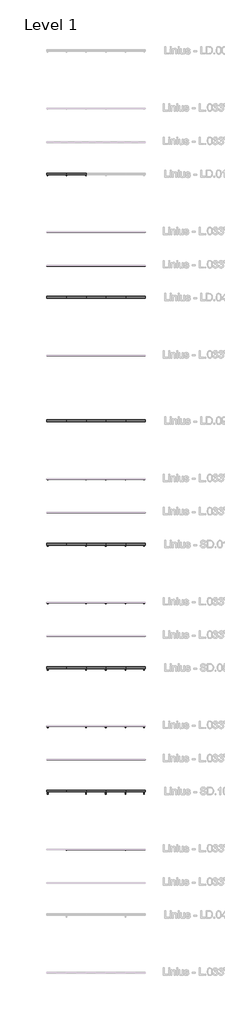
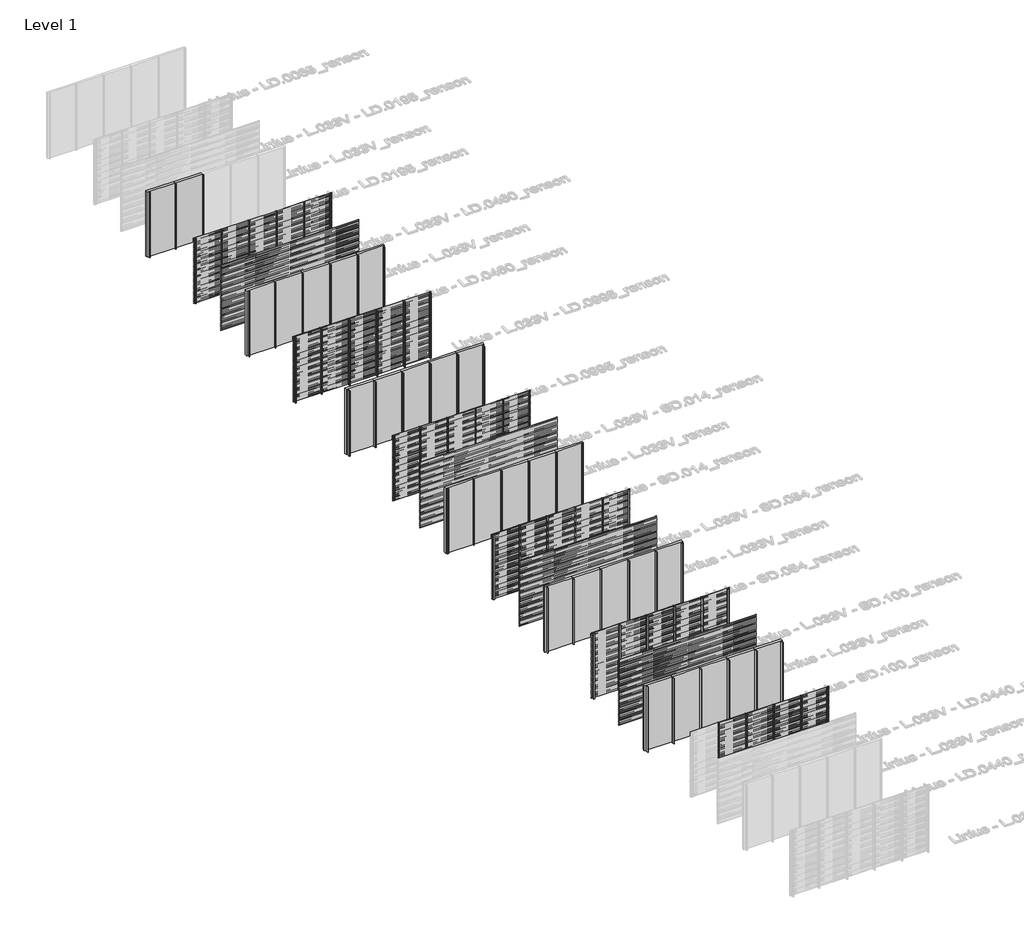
# One storey, part 3 of 507: 68 members, 60 plates.
"""IFC4 building model written with IfcOpenShell, lengths in millimetres."""

from ifc_helpers import new_model, si_unit, origin, origin_with_axes, place, context, project, spatial, polyline, outline, extrude, transform, mapped, element, save
from components import rectangular_mullion_e1f482b2, rectangular_mullion_21e3ddae, rectangular_mullion_fb497acc, rectangular_mullion_3facce28, rectangular_mullion_6cf2c509, rectangular_mullion_8b77bd57, rectangular_mullion_2c867e25, rectangular_mullion_146f339b, rectangular_mullion_c2c7736a, rectangular_mullion_35b0a916, rectangular_mullion_bd250e2e, rectangular_mullion_7b49c8f1, rectangular_mullion_2b84ad7e, rectangular_mullion_0fd695e7, rectangular_mullion_9b796d85, rectangular_mullion_dfb17e98, rectangular_mullion_6132f1f1, rectangular_mullion_8f153c19, rectangular_mullion_5e0e8e0a, empty_system_panel_empty_aabbdda4

model = new_model("IFC4")

# Units and contexts
model_context = context("Model", 3, world=origin())
ifc_project = project(units=[si_unit("LENGTHUNIT", "METRE", prefix="MILLI")], contexts=[model_context])

# Site, building, storey
site = spatial("IfcSite", under=ifc_project)
building = spatial("IfcBuilding", under=site)
storey = spatial("IfcBuildingStorey", under=building, Name="Level 1", Elevation=0.0)

# Members
placement = place(None, origin())
rectangular_mullion_shape = rectangular_mullion_e1f482b2(model_context)
element("IfcMember", 1, ObjectType="Rectangular Mullion : LD.0195_renson", at=placement, inside=storey, context=model_context, shape_type="MappedRepresentation", body=[
    mapped(rectangular_mullion_shape, transform((91866.6208097, 62481.0540136, 0.0), x_axis=(-1.0, 0.0, 0.0), y_axis=(0.0, 1.0, 0.0), z_axis=(0.0, 0.0, -1.0))),
])
element("IfcMember", 2, ObjectType="Rectangular Mullion : LD.0195_renson", at=placement, inside=storey, context=model_context, shape_type="MappedRepresentation", body=[
    mapped(rectangular_mullion_shape, transform((90666.6208099, 62481.0540136, 0.0), x_axis=(-1.0, 0.0, 0.0), y_axis=(0.0, 1.0, 0.0), z_axis=(0.0, 0.0, -1.0))),
])
rectangular_mullion_2_shape = rectangular_mullion_21e3ddae(model_context)
element("IfcMember", 3, ObjectType="Rectangular Mullion : LD.0460_renson", at=placement, inside=storey, context=model_context, shape_type="MappedRepresentation", body=[
    mapped(rectangular_mullion_2_shape, transform((93066.6208096, 54981.0540136, 0.0), x_axis=(-1.0, 0.0, 0.0), y_axis=(0.0, 1.0, 0.0), z_axis=(0.0, 0.0, -1.0))),
])
element("IfcMember", 4, ObjectType="Rectangular Mullion : LD.0460_renson", at=placement, inside=storey, context=model_context, shape_type="MappedRepresentation", body=[
    mapped(rectangular_mullion_2_shape, transform((91866.6208097, 54981.0540136, 0.0), x_axis=(-1.0, 0.0, 0.0), y_axis=(0.0, 1.0, 0.0), z_axis=(0.0, 0.0, -1.0))),
])
element("IfcMember", 5, ObjectType="Rectangular Mullion : LD.0460_renson", at=placement, inside=storey, context=model_context, shape_type="MappedRepresentation", body=[
    mapped(rectangular_mullion_2_shape, transform((90666.6208099, 54981.0540136, 0.0), x_axis=(-1.0, 0.0, 0.0), y_axis=(0.0, 1.0, 0.0), z_axis=(0.0, 0.0, -1.0))),
])
element("IfcMember", 6, ObjectType="Rectangular Mullion : LD.0460_renson", at=placement, inside=storey, context=model_context, shape_type="MappedRepresentation", body=[
    mapped(rectangular_mullion_2_shape, transform((94266.6208095, 54981.0540136, 0.0), x_axis=(-1.0, 0.0, 0.0), y_axis=(0.0, 1.0, 0.0), z_axis=(0.0, 0.0, -1.0))),
])
element("IfcMember", 7, ObjectType="Rectangular Mullion : LD.0460_renson", at=placement, inside=storey, context=model_context, shape_type="MappedRepresentation", body=[
    mapped(rectangular_mullion_2_shape, transform((94266.6208095, 59025.0540136, 0.0), x_axis=(-1.0, 0.0, 0.0), y_axis=(0.0, 1.0, 0.0), z_axis=(0.0, 0.0, -1.0))),
])
element("IfcMember", 8, ObjectType="Rectangular Mullion : LD.0460_renson", at=placement, inside=storey, context=model_context, shape_type="MappedRepresentation", body=[
    mapped(rectangular_mullion_2_shape, transform((93066.6208096, 59025.0540136, 0.0), x_axis=(-1.0, 0.0, 0.0), y_axis=(0.0, 1.0, 0.0), z_axis=(0.0, 0.0, -1.0))),
])
element("IfcMember", 9, ObjectType="Rectangular Mullion : LD.0460_renson", at=placement, inside=storey, context=model_context, shape_type="MappedRepresentation", body=[
    mapped(rectangular_mullion_2_shape, transform((91866.6208097, 59025.0540136, 0.0), x_axis=(-1.0, 0.0, 0.0), y_axis=(0.0, 1.0, 0.0), z_axis=(0.0, 0.0, -1.0))),
])
element("IfcMember", 10, ObjectType="Rectangular Mullion : LD.0460_renson", at=placement, inside=storey, context=model_context, shape_type="MappedRepresentation", body=[
    mapped(rectangular_mullion_2_shape, transform((90666.6208099, 59025.0540136, 0.0), x_axis=(-1.0, 0.0, 0.0), y_axis=(0.0, 1.0, 0.0), z_axis=(0.0, 0.0, -1.0))),
])
rectangular_mullion_3_shape = rectangular_mullion_fb497acc(model_context)
element("IfcMember", 11, ObjectType="Rectangular Mullion : LD.0995_renson", at=placement, inside=storey, context=model_context, shape_type="MappedRepresentation", body=[
    mapped(rectangular_mullion_3_shape, transform((93066.6208096, 47481.0540136, 0.0), x_axis=(-1.0, 0.0, 0.0), y_axis=(0.0, 1.0, 0.0), z_axis=(0.0, 0.0, -1.0))),
])
element("IfcMember", 12, ObjectType="Rectangular Mullion : LD.0995_renson", at=placement, inside=storey, context=model_context, shape_type="MappedRepresentation", body=[
    mapped(rectangular_mullion_3_shape, transform((91866.6208097, 47481.0540136, 0.0), x_axis=(-1.0, 0.0, 0.0), y_axis=(0.0, 1.0, 0.0), z_axis=(0.0, 0.0, -1.0))),
])
element("IfcMember", 13, ObjectType="Rectangular Mullion : LD.0995_renson", at=placement, inside=storey, context=model_context, shape_type="MappedRepresentation", body=[
    mapped(rectangular_mullion_3_shape, transform((90666.6208099, 47481.0540136, 0.0), x_axis=(-1.0, 0.0, 0.0), y_axis=(0.0, 1.0, 0.0), z_axis=(0.0, 0.0, -1.0))),
])
element("IfcMember", 14, ObjectType="Rectangular Mullion : LD.0995_renson", at=placement, inside=storey, context=model_context, shape_type="MappedRepresentation", body=[
    mapped(rectangular_mullion_3_shape, transform((94266.6208095, 47481.0540136, 0.0), x_axis=(-1.0, 0.0, 0.0), y_axis=(0.0, 1.0, 0.0), z_axis=(0.0, 0.0, -1.0))),
])
element("IfcMember", 15, ObjectType="Rectangular Mullion : LD.0995_renson", at=placement, inside=storey, context=model_context, shape_type="MappedRepresentation", body=[
    mapped(rectangular_mullion_3_shape, transform((94266.6208095, 51525.0540136, 0.0), x_axis=(-1.0, 0.0, 0.0), y_axis=(0.0, 1.0, 0.0), z_axis=(0.0, 0.0, -1.0))),
])
element("IfcMember", 16, ObjectType="Rectangular Mullion : LD.0995_renson", at=placement, inside=storey, context=model_context, shape_type="MappedRepresentation", body=[
    mapped(rectangular_mullion_3_shape, transform((93066.6208096, 51525.0540136, 0.0), x_axis=(-1.0, 0.0, 0.0), y_axis=(0.0, 1.0, 0.0), z_axis=(0.0, 0.0, -1.0))),
])
element("IfcMember", 17, ObjectType="Rectangular Mullion : LD.0995_renson", at=placement, inside=storey, context=model_context, shape_type="MappedRepresentation", body=[
    mapped(rectangular_mullion_3_shape, transform((91866.6208097, 51525.0540136, 0.0), x_axis=(-1.0, 0.0, 0.0), y_axis=(0.0, 1.0, 0.0), z_axis=(0.0, 0.0, -1.0))),
])
element("IfcMember", 18, ObjectType="Rectangular Mullion : LD.0995_renson", at=placement, inside=storey, context=model_context, shape_type="MappedRepresentation", body=[
    mapped(rectangular_mullion_3_shape, transform((90666.6208099, 51525.0540136, 0.0), x_axis=(-1.0, 0.0, 0.0), y_axis=(0.0, 1.0, 0.0), z_axis=(0.0, 0.0, -1.0))),
])
rectangular_mullion_4_shape = rectangular_mullion_3facce28(model_context)
element("IfcMember", 19, ObjectType="Rectangular Mullion : SD.014_renson", at=placement, inside=storey, context=model_context, shape_type="MappedRepresentation", body=[
    mapped(rectangular_mullion_4_shape, transform((93066.6208096, 39981.0540136, 0.0), x_axis=(-1.0, 0.0, 0.0), y_axis=(0.0, 1.0, 0.0), z_axis=(0.0, 0.0, -1.0))),
])
element("IfcMember", 20, ObjectType="Rectangular Mullion : SD.014_renson", at=placement, inside=storey, context=model_context, shape_type="MappedRepresentation", body=[
    mapped(rectangular_mullion_4_shape, transform((91866.6208097, 39981.0540136, 0.0), x_axis=(-1.0, 0.0, 0.0), y_axis=(0.0, 1.0, 0.0), z_axis=(0.0, 0.0, -1.0))),
])
element("IfcMember", 21, ObjectType="Rectangular Mullion : SD.014_renson", at=placement, inside=storey, context=model_context, shape_type="MappedRepresentation", body=[
    mapped(rectangular_mullion_4_shape, transform((90666.6208099, 39981.0540136, 0.0), x_axis=(-1.0, 0.0, 0.0), y_axis=(0.0, 1.0, 0.0), z_axis=(0.0, 0.0, -1.0))),
])
element("IfcMember", 22, ObjectType="Rectangular Mullion : SD.014_renson", at=placement, inside=storey, context=model_context, shape_type="MappedRepresentation", body=[
    mapped(rectangular_mullion_4_shape, transform((94266.6208095, 39981.0540136, 0.0), x_axis=(-1.0, 0.0, 0.0), y_axis=(0.0, 1.0, 0.0), z_axis=(0.0, 0.0, -1.0))),
])
element("IfcMember", 23, ObjectType="Rectangular Mullion : SD.014_renson", at=placement, inside=storey, context=model_context, shape_type="MappedRepresentation", body=[
    mapped(rectangular_mullion_4_shape, transform((94266.6208095, 44025.0540136, 0.0), x_axis=(-1.0, 0.0, 0.0), y_axis=(0.0, 1.0, 0.0), z_axis=(0.0, 0.0, -1.0))),
])
element("IfcMember", 24, ObjectType="Rectangular Mullion : SD.014_renson", at=placement, inside=storey, context=model_context, shape_type="MappedRepresentation", body=[
    mapped(rectangular_mullion_4_shape, transform((93066.6208096, 44025.0540136, 0.0), x_axis=(-1.0, 0.0, 0.0), y_axis=(0.0, 1.0, 0.0), z_axis=(0.0, 0.0, -1.0))),
])
element("IfcMember", 25, ObjectType="Rectangular Mullion : SD.014_renson", at=placement, inside=storey, context=model_context, shape_type="MappedRepresentation", body=[
    mapped(rectangular_mullion_4_shape, transform((91866.6208097, 44025.0540136, 0.0), x_axis=(-1.0, 0.0, 0.0), y_axis=(0.0, 1.0, 0.0), z_axis=(0.0, 0.0, -1.0))),
])
element("IfcMember", 26, ObjectType="Rectangular Mullion : SD.014_renson", at=placement, inside=storey, context=model_context, shape_type="MappedRepresentation", body=[
    mapped(rectangular_mullion_4_shape, transform((90666.6208099, 44025.0540136, 0.0), x_axis=(-1.0, 0.0, 0.0), y_axis=(0.0, 1.0, 0.0), z_axis=(0.0, 0.0, -1.0))),
])
rectangular_mullion_5_shape = rectangular_mullion_6cf2c509(model_context)
element("IfcMember", 27, ObjectType="Rectangular Mullion : SD.054_renson", at=placement, inside=storey, context=model_context, shape_type="MappedRepresentation", body=[
    mapped(rectangular_mullion_5_shape, transform((93066.6208096, 32481.0540136, 0.0), x_axis=(-1.0, 0.0, 0.0), y_axis=(0.0, 1.0, 0.0), z_axis=(0.0, 0.0, -1.0))),
])
element("IfcMember", 28, ObjectType="Rectangular Mullion : SD.054_renson", at=placement, inside=storey, context=model_context, shape_type="MappedRepresentation", body=[
    mapped(rectangular_mullion_5_shape, transform((91866.6208097, 32481.0540136, 0.0), x_axis=(-1.0, 0.0, 0.0), y_axis=(0.0, 1.0, 0.0), z_axis=(0.0, 0.0, -1.0))),
])
element("IfcMember", 29, ObjectType="Rectangular Mullion : SD.054_renson", at=placement, inside=storey, context=model_context, shape_type="MappedRepresentation", body=[
    mapped(rectangular_mullion_5_shape, transform((90666.6208099, 32481.0540136, 0.0), x_axis=(-1.0, 0.0, 0.0), y_axis=(0.0, 1.0, 0.0), z_axis=(0.0, 0.0, -1.0))),
])
element("IfcMember", 30, ObjectType="Rectangular Mullion : SD.054_renson", at=placement, inside=storey, context=model_context, shape_type="MappedRepresentation", body=[
    mapped(rectangular_mullion_5_shape, transform((94266.6208095, 32481.0540136, 0.0), x_axis=(-1.0, 0.0, 0.0), y_axis=(0.0, 1.0, 0.0), z_axis=(0.0, 0.0, -1.0))),
])
element("IfcMember", 31, ObjectType="Rectangular Mullion : SD.054_renson", at=placement, inside=storey, context=model_context, shape_type="MappedRepresentation", body=[
    mapped(rectangular_mullion_5_shape, transform((94266.6208095, 36525.0540136, 0.0), x_axis=(-1.0, 0.0, 0.0), y_axis=(0.0, 1.0, 0.0), z_axis=(0.0, 0.0, -1.0))),
])
element("IfcMember", 32, ObjectType="Rectangular Mullion : SD.054_renson", at=placement, inside=storey, context=model_context, shape_type="MappedRepresentation", body=[
    mapped(rectangular_mullion_5_shape, transform((93066.6208096, 36525.0540136, 0.0), x_axis=(-1.0, 0.0, 0.0), y_axis=(0.0, 1.0, 0.0), z_axis=(0.0, 0.0, -1.0))),
])
element("IfcMember", 33, ObjectType="Rectangular Mullion : SD.054_renson", at=placement, inside=storey, context=model_context, shape_type="MappedRepresentation", body=[
    mapped(rectangular_mullion_5_shape, transform((91866.6208097, 36525.0540136, 0.0), x_axis=(-1.0, 0.0, 0.0), y_axis=(0.0, 1.0, 0.0), z_axis=(0.0, 0.0, -1.0))),
])
element("IfcMember", 34, ObjectType="Rectangular Mullion : SD.054_renson", at=placement, inside=storey, context=model_context, shape_type="MappedRepresentation", body=[
    mapped(rectangular_mullion_5_shape, transform((90666.6208099, 36525.0540136, 0.0), x_axis=(-1.0, 0.0, 0.0), y_axis=(0.0, 1.0, 0.0), z_axis=(0.0, 0.0, -1.0))),
])
rectangular_mullion_6_shape = rectangular_mullion_8b77bd57(model_context)
element("IfcMember", 35, ObjectType="Rectangular Mullion : SD.100_renson", at=placement, inside=storey, context=model_context, shape_type="MappedRepresentation", body=[
    mapped(rectangular_mullion_6_shape, transform((93066.6208096, 24981.0540136, 0.0), x_axis=(-1.0, 0.0, 0.0), y_axis=(0.0, 1.0, 0.0), z_axis=(0.0, 0.0, -1.0))),
])
element("IfcMember", 36, ObjectType="Rectangular Mullion : SD.100_renson", at=placement, inside=storey, context=model_context, shape_type="MappedRepresentation", body=[
    mapped(rectangular_mullion_6_shape, transform((91866.6208097, 24981.0540136, 0.0), x_axis=(-1.0, 0.0, 0.0), y_axis=(0.0, 1.0, 0.0), z_axis=(0.0, 0.0, -1.0))),
])
element("IfcMember", 37, ObjectType="Rectangular Mullion : SD.100_renson", at=placement, inside=storey, context=model_context, shape_type="MappedRepresentation", body=[
    mapped(rectangular_mullion_6_shape, transform((90666.6208099, 24981.0540136, 0.0), x_axis=(-1.0, 0.0, 0.0), y_axis=(0.0, 1.0, 0.0), z_axis=(0.0, 0.0, -1.0))),
])
element("IfcMember", 38, ObjectType="Rectangular Mullion : SD.100_renson", at=placement, inside=storey, context=model_context, shape_type="MappedRepresentation", body=[
    mapped(rectangular_mullion_6_shape, transform((94266.6208095, 24981.0540136, 0.0), x_axis=(-1.0, 0.0, 0.0), y_axis=(0.0, 1.0, 0.0), z_axis=(0.0, 0.0, -1.0))),
])
element("IfcMember", 39, ObjectType="Rectangular Mullion : SD.100_renson", at=placement, inside=storey, context=model_context, shape_type="MappedRepresentation", body=[
    mapped(rectangular_mullion_6_shape, transform((94266.6208095, 29025.0540136, 0.0), x_axis=(-1.0, 0.0, 0.0), y_axis=(0.0, 1.0, 0.0), z_axis=(0.0, 0.0, -1.0))),
])
element("IfcMember", 40, ObjectType="Rectangular Mullion : SD.100_renson", at=placement, inside=storey, context=model_context, shape_type="MappedRepresentation", body=[
    mapped(rectangular_mullion_6_shape, transform((93066.6208096, 29025.0540136, 0.0), x_axis=(-1.0, 0.0, 0.0), y_axis=(0.0, 1.0, 0.0), z_axis=(0.0, 0.0, -1.0))),
])
element("IfcMember", 41, ObjectType="Rectangular Mullion : SD.100_renson", at=placement, inside=storey, context=model_context, shape_type="MappedRepresentation", body=[
    mapped(rectangular_mullion_6_shape, transform((91866.6208097, 29025.0540136, 0.0), x_axis=(-1.0, 0.0, 0.0), y_axis=(0.0, 1.0, 0.0), z_axis=(0.0, 0.0, -1.0))),
])
element("IfcMember", 42, ObjectType="Rectangular Mullion : SD.100_renson", at=placement, inside=storey, context=model_context, shape_type="MappedRepresentation", body=[
    mapped(rectangular_mullion_6_shape, transform((90666.6208099, 29025.0540136, 0.0), x_axis=(-1.0, 0.0, 0.0), y_axis=(0.0, 1.0, 0.0), z_axis=(0.0, 0.0, -1.0))),
])
rectangular_mullion_7_shape = rectangular_mullion_2c867e25(model_context)
element("IfcMember", 43, ObjectType="Rectangular Mullion : LD.0440_renson", at=placement, inside=storey, context=model_context, shape_type="MappedRepresentation", body=[
    mapped(rectangular_mullion_7_shape, transform((94266.6208095, 21525.0540136, 0.0), x_axis=(-1.0, 0.0, 0.0), y_axis=(0.0, 1.0, 0.0), z_axis=(0.0, 0.0, -1.0))),
])
element("IfcMember", 44, ObjectType="Rectangular Mullion : LD.0440_renson", at=placement, inside=storey, context=model_context, shape_type="MappedRepresentation", body=[
    mapped(rectangular_mullion_7_shape, transform((93066.6208096, 21525.0540136, 0.0), x_axis=(-1.0, 0.0, 0.0), y_axis=(0.0, 1.0, 0.0), z_axis=(0.0, 0.0, -1.0))),
])
element("IfcMember", 45, ObjectType="Rectangular Mullion : LD.0440_renson", at=placement, inside=storey, context=model_context, shape_type="MappedRepresentation", body=[
    mapped(rectangular_mullion_7_shape, transform((91866.6208097, 21525.0540136, 0.0), x_axis=(-1.0, 0.0, 0.0), y_axis=(0.0, 1.0, 0.0), z_axis=(0.0, 0.0, -1.0))),
])
element("IfcMember", 46, ObjectType="Rectangular Mullion : LD.0440_renson", at=placement, inside=storey, context=model_context, shape_type="MappedRepresentation", body=[
    mapped(rectangular_mullion_7_shape, transform((90666.6208099, 21525.0540136, 0.0), x_axis=(-1.0, 0.0, 0.0), y_axis=(0.0, 1.0, 0.0), z_axis=(0.0, 0.0, -1.0))),
])
rectangular_mullion_8_shape = rectangular_mullion_146f339b(model_context)
element("IfcMember", 47, ObjectType="Rectangular Mullion : LD.0195 - left_renson", at=placement, inside=storey, context=model_context, shape_type="MappedRepresentation", body=[
    mapped(rectangular_mullion_8_shape, transform((89466.6208097, 62481.0540136, 0.0), x_axis=(-1.0, 0.0, 0.0), y_axis=(0.0, 1.0, 0.0), z_axis=(0.0, 0.0, -1.0))),
])
rectangular_mullion_9_shape = rectangular_mullion_c2c7736a(model_context)
element("IfcMember", 48, ObjectType="Rectangular Mullion : LD.0460 - left_renson", at=placement, inside=storey, context=model_context, shape_type="MappedRepresentation", body=[
    mapped(rectangular_mullion_9_shape, transform((89466.6208097, 54981.0540136, 0.0), x_axis=(-1.0, 0.0, 0.0), y_axis=(0.0, 1.0, 0.0), z_axis=(0.0, 0.0, -1.0))),
])
element("IfcMember", 49, ObjectType="Rectangular Mullion : LD.0460 - left_renson", at=placement, inside=storey, context=model_context, shape_type="MappedRepresentation", body=[
    mapped(rectangular_mullion_9_shape, transform((89466.6208097, 59025.0540136, 0.0), x_axis=(-1.0, 0.0, 0.0), y_axis=(0.0, 1.0, 0.0), z_axis=(0.0, 0.0, -1.0))),
])
rectangular_mullion_10_shape = rectangular_mullion_35b0a916(model_context)
element("IfcMember", 50, ObjectType="Rectangular Mullion : LD.0460 - right_renson", at=placement, inside=storey, context=model_context, shape_type="MappedRepresentation", body=[
    mapped(rectangular_mullion_10_shape, transform((95466.6208097, 54981.0540136, 3000.0), x_axis=(1.0, 0.0, 0.0), y_axis=(0.0, 1.0, 0.0), z_axis=(0.0, 0.0, 1.0))),
])
element("IfcMember", 51, ObjectType="Rectangular Mullion : LD.0460 - right_renson", at=placement, inside=storey, context=model_context, shape_type="MappedRepresentation", body=[
    mapped(rectangular_mullion_10_shape, transform((95466.6208097, 59025.0540136, 3000.0), x_axis=(1.0, 0.0, 0.0), y_axis=(0.0, 1.0, 0.0), z_axis=(0.0, 0.0, 1.0))),
])
rectangular_mullion_11_shape = rectangular_mullion_bd250e2e(model_context)
element("IfcMember", 52, ObjectType="Rectangular Mullion : LD.0995 - left_renson", at=placement, inside=storey, context=model_context, shape_type="MappedRepresentation", body=[
    mapped(rectangular_mullion_11_shape, transform((89466.6208097, 47481.0540136, 0.0), x_axis=(-1.0, 0.0, 0.0), y_axis=(0.0, 1.0, 0.0), z_axis=(0.0, 0.0, -1.0))),
])
element("IfcMember", 53, ObjectType="Rectangular Mullion : LD.0995 - left_renson", at=placement, inside=storey, context=model_context, shape_type="MappedRepresentation", body=[
    mapped(rectangular_mullion_11_shape, transform((89466.6208097, 51525.0540136, 0.0), x_axis=(-1.0, 0.0, 0.0), y_axis=(0.0, 1.0, 0.0), z_axis=(0.0, 0.0, -1.0))),
])
rectangular_mullion_12_shape = rectangular_mullion_7b49c8f1(model_context)
element("IfcMember", 54, ObjectType="Rectangular Mullion : LD.0995 - right_renson", at=placement, inside=storey, context=model_context, shape_type="MappedRepresentation", body=[
    mapped(rectangular_mullion_12_shape, transform((95466.6208097, 47481.0540136, 3000.0), x_axis=(1.0, 0.0, 0.0), y_axis=(0.0, 1.0, 0.0), z_axis=(0.0, 0.0, 1.0))),
])
element("IfcMember", 55, ObjectType="Rectangular Mullion : LD.0995 - right_renson", at=placement, inside=storey, context=model_context, shape_type="MappedRepresentation", body=[
    mapped(rectangular_mullion_12_shape, transform((95466.6208097, 51525.0540136, 3000.0), x_axis=(1.0, 0.0, 0.0), y_axis=(0.0, 1.0, 0.0), z_axis=(0.0, 0.0, 1.0))),
])
rectangular_mullion_13_shape = rectangular_mullion_2b84ad7e(model_context)
element("IfcMember", 56, ObjectType="Rectangular Mullion : SD.014 - left_renson", at=placement, inside=storey, context=model_context, shape_type="MappedRepresentation", body=[
    mapped(rectangular_mullion_13_shape, transform((89466.6208097, 39981.0540136, 0.0), x_axis=(-1.0, 0.0, 0.0), y_axis=(0.0, 1.0, 0.0), z_axis=(0.0, 0.0, -1.0))),
])
element("IfcMember", 57, ObjectType="Rectangular Mullion : SD.014 - left_renson", at=placement, inside=storey, context=model_context, shape_type="MappedRepresentation", body=[
    mapped(rectangular_mullion_13_shape, transform((89466.6208097, 44025.0540136, 0.0), x_axis=(-1.0, 0.0, 0.0), y_axis=(0.0, 1.0, 0.0), z_axis=(0.0, 0.0, -1.0))),
])
rectangular_mullion_14_shape = rectangular_mullion_0fd695e7(model_context)
element("IfcMember", 58, ObjectType="Rectangular Mullion : SD.014 - right_renson", at=placement, inside=storey, context=model_context, shape_type="MappedRepresentation", body=[
    mapped(rectangular_mullion_14_shape, transform((95466.6208097, 39981.0540136, 3000.0), x_axis=(1.0, 0.0, 0.0), y_axis=(0.0, 1.0, 0.0), z_axis=(0.0, 0.0, 1.0))),
])
element("IfcMember", 59, ObjectType="Rectangular Mullion : SD.014 - right_renson", at=placement, inside=storey, context=model_context, shape_type="MappedRepresentation", body=[
    mapped(rectangular_mullion_14_shape, transform((95466.6208097, 44025.0540136, 3000.0), x_axis=(1.0, 0.0, 0.0), y_axis=(0.0, 1.0, 0.0), z_axis=(0.0, 0.0, 1.0))),
])
rectangular_mullion_15_shape = rectangular_mullion_9b796d85(model_context)
element("IfcMember", 60, ObjectType="Rectangular Mullion : SD.054 - left_renson", at=placement, inside=storey, context=model_context, shape_type="MappedRepresentation", body=[
    mapped(rectangular_mullion_15_shape, transform((89466.6208097, 32481.0540136, 0.0), x_axis=(-1.0, 0.0, 0.0), y_axis=(0.0, 1.0, 0.0), z_axis=(0.0, 0.0, -1.0))),
])
element("IfcMember", 61, ObjectType="Rectangular Mullion : SD.054 - left_renson", at=placement, inside=storey, context=model_context, shape_type="MappedRepresentation", body=[
    mapped(rectangular_mullion_15_shape, transform((89466.6208097, 36525.0540136, 0.0), x_axis=(-1.0, 0.0, 0.0), y_axis=(0.0, 1.0, 0.0), z_axis=(0.0, 0.0, -1.0))),
])
rectangular_mullion_16_shape = rectangular_mullion_dfb17e98(model_context)
element("IfcMember", 62, ObjectType="Rectangular Mullion : SD.054 - right_renson", at=placement, inside=storey, context=model_context, shape_type="MappedRepresentation", body=[
    mapped(rectangular_mullion_16_shape, transform((95466.6208097, 32481.0540136, 3000.0), x_axis=(1.0, 0.0, 0.0), y_axis=(0.0, 1.0, 0.0), z_axis=(0.0, 0.0, 1.0))),
])
element("IfcMember", 63, ObjectType="Rectangular Mullion : SD.054 - right_renson", at=placement, inside=storey, context=model_context, shape_type="MappedRepresentation", body=[
    mapped(rectangular_mullion_16_shape, transform((95466.6208097, 36525.0540136, 3000.0), x_axis=(1.0, 0.0, 0.0), y_axis=(0.0, 1.0, 0.0), z_axis=(0.0, 0.0, 1.0))),
])
rectangular_mullion_17_shape = rectangular_mullion_6132f1f1(model_context)
element("IfcMember", 64, ObjectType="Rectangular Mullion : SD.100 - left_renson", at=placement, inside=storey, context=model_context, shape_type="MappedRepresentation", body=[
    mapped(rectangular_mullion_17_shape, transform((89466.6208097, 24981.0540136, 0.0), x_axis=(-1.0, 0.0, 0.0), y_axis=(0.0, 1.0, 0.0), z_axis=(0.0, 0.0, -1.0))),
])
element("IfcMember", 65, ObjectType="Rectangular Mullion : SD.100 - left_renson", at=placement, inside=storey, context=model_context, shape_type="MappedRepresentation", body=[
    mapped(rectangular_mullion_17_shape, transform((89466.6208097, 29025.0540136, 0.0), x_axis=(-1.0, 0.0, 0.0), y_axis=(0.0, 1.0, 0.0), z_axis=(0.0, 0.0, -1.0))),
])
rectangular_mullion_18_shape = rectangular_mullion_8f153c19(model_context)
element("IfcMember", 66, ObjectType="Rectangular Mullion : SD.100 - right_renson", at=placement, inside=storey, context=model_context, shape_type="MappedRepresentation", body=[
    mapped(rectangular_mullion_18_shape, transform((95466.6208097, 24981.0540136, 3000.0), x_axis=(1.0, 0.0, 0.0), y_axis=(0.0, 1.0, 0.0), z_axis=(0.0, 0.0, 1.0))),
])
element("IfcMember", 67, ObjectType="Rectangular Mullion : SD.100 - right_renson", at=placement, inside=storey, context=model_context, shape_type="MappedRepresentation", body=[
    mapped(rectangular_mullion_18_shape, transform((95466.6208097, 29025.0540136, 3000.0), x_axis=(1.0, 0.0, 0.0), y_axis=(0.0, 1.0, 0.0), z_axis=(0.0, 0.0, 1.0))),
])
rectangular_mullion_19_shape = rectangular_mullion_5e0e8e0a(model_context)
element("IfcMember", 68, ObjectType="Rectangular Mullion : LD.0440 - right_renson", at=placement, inside=storey, context=model_context, shape_type="MappedRepresentation", body=[
    mapped(rectangular_mullion_19_shape, transform((95466.6208097, 21525.0540136, 3000.0), x_axis=(1.0, 0.0, 0.0), y_axis=(0.0, 1.0, 0.0), z_axis=(0.0, 0.0, 1.0))),
])

# Plates
element("IfcPlate", 69, ObjectType="Linius - L.033V_renson", at=placement, inside=storey, context=model_context, shape_type="SweptSolid", body=[
    extrude(outline(polyline([(89466.6208097, 59026.0540136), (90666.6208099, 59026.0540136), (90666.6208099, 59024.0540136), (89466.6208097, 59024.0540136), (89466.6208097, 59026.0540136)])), origin_with_axes(), (0.0, 0.0, 1.0), 3000.0),
])
element("IfcPlate", 70, ObjectType="Linius - L.033V_renson", at=placement, inside=storey, context=model_context, shape_type="SweptSolid", body=[
    extrude(outline(polyline([(90666.6208099, 59026.0540136), (91866.6208097, 59026.0540136), (91866.6208097, 59024.0540136), (90666.6208099, 59024.0540136), (90666.6208099, 59026.0540136)])), origin_with_axes(), (0.0, 0.0, 1.0), 3000.0),
])
element("IfcPlate", 71, ObjectType="Linius - L.033V_renson", at=placement, inside=storey, context=model_context, shape_type="SweptSolid", body=[
    extrude(outline(polyline([(91866.6208097, 59026.0540136), (93066.6208096, 59026.0540136), (93066.6208096, 59024.0540136), (91866.6208097, 59024.0540136), (91866.6208097, 59026.0540136)])), origin_with_axes(), (0.0, 0.0, 1.0), 3000.0),
])
element("IfcPlate", 72, ObjectType="Linius - L.033V_renson", at=placement, inside=storey, context=model_context, shape_type="SweptSolid", body=[
    extrude(outline(polyline([(93066.6208096, 59026.0540136), (94266.6208095, 59026.0540136), (94266.6208095, 59024.0540136), (93066.6208096, 59024.0540136), (93066.6208096, 59026.0540136)])), origin_with_axes(), (0.0, 0.0, 1.0), 3000.0),
])
element("IfcPlate", 73, ObjectType="Linius - L.033V_renson", at=placement, inside=storey, context=model_context, shape_type="SweptSolid", body=[
    extrude(outline(polyline([(89466.6208097, 51526.0540136), (90666.6208099, 51526.0540136), (90666.6208099, 51524.0540136), (89466.6208097, 51524.0540136), (89466.6208097, 51526.0540136)])), origin_with_axes(), (0.0, 0.0, 1.0), 3000.0),
])
element("IfcPlate", 74, ObjectType="Linius - L.033V_renson", at=placement, inside=storey, context=model_context, shape_type="SweptSolid", body=[
    extrude(outline(polyline([(90666.6208099, 51526.0540136), (91866.6208097, 51526.0540136), (91866.6208097, 51524.0540136), (90666.6208099, 51524.0540136), (90666.6208099, 51526.0540136)])), origin_with_axes(), (0.0, 0.0, 1.0), 3000.0),
])
element("IfcPlate", 75, ObjectType="Linius - L.033V_renson", at=placement, inside=storey, context=model_context, shape_type="SweptSolid", body=[
    extrude(outline(polyline([(91866.6208097, 51526.0540136), (93066.6208096, 51526.0540136), (93066.6208096, 51524.0540136), (91866.6208097, 51524.0540136), (91866.6208097, 51526.0540136)])), origin_with_axes(), (0.0, 0.0, 1.0), 3000.0),
])
element("IfcPlate", 76, ObjectType="Linius - L.033V_renson", at=placement, inside=storey, context=model_context, shape_type="SweptSolid", body=[
    extrude(outline(polyline([(93066.6208096, 51526.0540136), (94266.6208095, 51526.0540136), (94266.6208095, 51524.0540136), (93066.6208096, 51524.0540136), (93066.6208096, 51526.0540136)])), origin_with_axes(), (0.0, 0.0, 1.0), 3000.0),
])
element("IfcPlate", 77, ObjectType="Linius - L.033V_renson", at=placement, inside=storey, context=model_context, shape_type="SweptSolid", body=[
    extrude(outline(polyline([(89466.6208097, 44026.0540136), (90666.6208099, 44026.0540136), (90666.6208099, 44024.0540136), (89466.6208097, 44024.0540136), (89466.6208097, 44026.0540136)])), origin_with_axes(), (0.0, 0.0, 1.0), 3000.0),
])
element("IfcPlate", 78, ObjectType="Linius - L.033V_renson", at=placement, inside=storey, context=model_context, shape_type="SweptSolid", body=[
    extrude(outline(polyline([(90666.6208099, 44026.0540136), (91866.6208097, 44026.0540136), (91866.6208097, 44024.0540136), (90666.6208099, 44024.0540136), (90666.6208099, 44026.0540136)])), origin_with_axes(), (0.0, 0.0, 1.0), 3000.0),
])
element("IfcPlate", 79, ObjectType="Linius - L.033V_renson", at=placement, inside=storey, context=model_context, shape_type="SweptSolid", body=[
    extrude(outline(polyline([(91866.6208097, 44026.0540136), (93066.6208096, 44026.0540136), (93066.6208096, 44024.0540136), (91866.6208097, 44024.0540136), (91866.6208097, 44026.0540136)])), origin_with_axes(), (0.0, 0.0, 1.0), 3000.0),
])
element("IfcPlate", 80, ObjectType="Linius - L.033V_renson", at=placement, inside=storey, context=model_context, shape_type="SweptSolid", body=[
    extrude(outline(polyline([(93066.6208096, 44026.0540136), (94266.6208095, 44026.0540136), (94266.6208095, 44024.0540136), (93066.6208096, 44024.0540136), (93066.6208096, 44026.0540136)])), origin_with_axes(), (0.0, 0.0, 1.0), 3000.0),
])
element("IfcPlate", 81, ObjectType="Linius - L.033V_renson", at=placement, inside=storey, context=model_context, shape_type="SweptSolid", body=[
    extrude(outline(polyline([(89466.6208097, 36526.0540136), (90666.6208099, 36526.0540136), (90666.6208099, 36524.0540136), (89466.6208097, 36524.0540136), (89466.6208097, 36526.0540136)])), origin_with_axes(), (0.0, 0.0, 1.0), 3000.0),
])
element("IfcPlate", 82, ObjectType="Linius - L.033V_renson", at=placement, inside=storey, context=model_context, shape_type="SweptSolid", body=[
    extrude(outline(polyline([(90666.6208099, 36526.0540136), (91866.6208097, 36526.0540136), (91866.6208097, 36524.0540136), (90666.6208099, 36524.0540136), (90666.6208099, 36526.0540136)])), origin_with_axes(), (0.0, 0.0, 1.0), 3000.0),
])
element("IfcPlate", 83, ObjectType="Linius - L.033V_renson", at=placement, inside=storey, context=model_context, shape_type="SweptSolid", body=[
    extrude(outline(polyline([(91866.6208097, 36526.0540136), (93066.6208096, 36526.0540136), (93066.6208096, 36524.0540136), (91866.6208097, 36524.0540136), (91866.6208097, 36526.0540136)])), origin_with_axes(), (0.0, 0.0, 1.0), 3000.0),
])
element("IfcPlate", 84, ObjectType="Linius - L.033V_renson", at=placement, inside=storey, context=model_context, shape_type="SweptSolid", body=[
    extrude(outline(polyline([(93066.6208096, 36526.0540136), (94266.6208095, 36526.0540136), (94266.6208095, 36524.0540136), (93066.6208096, 36524.0540136), (93066.6208096, 36526.0540136)])), origin_with_axes(), (0.0, 0.0, 1.0), 3000.0),
])
element("IfcPlate", 85, ObjectType="Linius - L.033V_renson", at=placement, inside=storey, context=model_context, shape_type="SweptSolid", body=[
    extrude(outline(polyline([(89466.6208097, 29026.0540136), (90666.6208099, 29026.0540136), (90666.6208099, 29024.0540136), (89466.6208097, 29024.0540136), (89466.6208097, 29026.0540136)])), origin_with_axes(), (0.0, 0.0, 1.0), 3000.0),
])
element("IfcPlate", 86, ObjectType="Linius - L.033V_renson", at=placement, inside=storey, context=model_context, shape_type="SweptSolid", body=[
    extrude(outline(polyline([(90666.6208099, 29026.0540136), (91866.6208097, 29026.0540136), (91866.6208097, 29024.0540136), (90666.6208099, 29024.0540136), (90666.6208099, 29026.0540136)])), origin_with_axes(), (0.0, 0.0, 1.0), 3000.0),
])
element("IfcPlate", 87, ObjectType="Linius - L.033V_renson", at=placement, inside=storey, context=model_context, shape_type="SweptSolid", body=[
    extrude(outline(polyline([(91866.6208097, 29026.0540136), (93066.6208096, 29026.0540136), (93066.6208096, 29024.0540136), (91866.6208097, 29024.0540136), (91866.6208097, 29026.0540136)])), origin_with_axes(), (0.0, 0.0, 1.0), 3000.0),
])
element("IfcPlate", 88, ObjectType="Linius - L.033V_renson", at=placement, inside=storey, context=model_context, shape_type="SweptSolid", body=[
    extrude(outline(polyline([(93066.6208096, 29026.0540136), (94266.6208095, 29026.0540136), (94266.6208095, 29024.0540136), (93066.6208096, 29024.0540136), (93066.6208096, 29026.0540136)])), origin_with_axes(), (0.0, 0.0, 1.0), 3000.0),
])
element("IfcPlate", 89, ObjectType="Linius - L.033V_renson", at=placement, inside=storey, context=model_context, shape_type="SweptSolid", body=[
    extrude(outline(polyline([(90666.6208099, 21526.0540136), (91866.6208097, 21526.0540136), (91866.6208097, 21524.0540136), (90666.6208099, 21524.0540136), (90666.6208099, 21526.0540136)])), origin_with_axes(), (0.0, 0.0, 1.0), 3000.0),
])
element("IfcPlate", 90, ObjectType="Linius - L.033V_renson", at=placement, inside=storey, context=model_context, shape_type="SweptSolid", body=[
    extrude(outline(polyline([(91866.6208097, 21526.0540136), (93066.6208096, 21526.0540136), (93066.6208096, 21524.0540136), (91866.6208097, 21524.0540136), (91866.6208097, 21526.0540136)])), origin_with_axes(), (0.0, 0.0, 1.0), 3000.0),
])
element("IfcPlate", 91, ObjectType="Linius - L.033V_renson", at=placement, inside=storey, context=model_context, shape_type="SweptSolid", body=[
    extrude(outline(polyline([(93066.6208096, 21526.0540136), (94266.6208095, 21526.0540136), (94266.6208095, 21524.0540136), (93066.6208096, 21524.0540136), (93066.6208096, 21526.0540136)])), origin_with_axes(), (0.0, 0.0, 1.0), 3000.0),
])
element("IfcPlate", 92, ObjectType="Linius - L.033V_renson", at=placement, inside=storey, context=model_context, shape_type="SweptSolid", body=[
    extrude(outline(polyline([(94266.6208095, 21526.0540136), (95466.6208097, 21526.0540136), (95466.6208097, 21524.0540136), (94266.6208095, 21524.0540136), (94266.6208095, 21526.0540136)])), origin_with_axes(), (0.0, 0.0, 1.0), 3000.0),
])
element("IfcPlate", 93, ObjectType="Linius - L.033V_renson", at=placement, inside=storey, context=model_context, shape_type="SweptSolid", body=[
    extrude(outline(polyline([(94266.6208095, 59026.0540136), (95466.6208097, 59026.0540136), (95466.6208097, 59024.0540136), (94266.6208095, 59024.0540136), (94266.6208095, 59026.0540136)])), origin_with_axes(), (0.0, 0.0, 1.0), 3000.0),
])
element("IfcPlate", 94, ObjectType="Linius - L.033V_renson", at=placement, inside=storey, context=model_context, shape_type="SweptSolid", body=[
    extrude(outline(polyline([(94266.6208095, 51526.0540136), (95466.6208097, 51526.0540136), (95466.6208097, 51524.0540136), (94266.6208095, 51524.0540136), (94266.6208095, 51526.0540136)])), origin_with_axes(), (0.0, 0.0, 1.0), 3000.0),
])
element("IfcPlate", 95, ObjectType="Linius - L.033V_renson", at=placement, inside=storey, context=model_context, shape_type="SweptSolid", body=[
    extrude(outline(polyline([(94266.6208095, 44026.0540136), (95466.6208097, 44026.0540136), (95466.6208097, 44024.0540136), (94266.6208095, 44024.0540136), (94266.6208095, 44026.0540136)])), origin_with_axes(), (0.0, 0.0, 1.0), 3000.0),
])
element("IfcPlate", 96, ObjectType="Linius - L.033V_renson", at=placement, inside=storey, context=model_context, shape_type="SweptSolid", body=[
    extrude(outline(polyline([(94266.6208095, 36526.0540136), (95466.6208097, 36526.0540136), (95466.6208097, 36524.0540136), (94266.6208095, 36524.0540136), (94266.6208095, 36526.0540136)])), origin_with_axes(), (0.0, 0.0, 1.0), 3000.0),
])
element("IfcPlate", 97, ObjectType="Linius - L.033V_renson", at=placement, inside=storey, context=model_context, shape_type="SweptSolid", body=[
    extrude(outline(polyline([(94266.6208095, 29026.0540136), (95466.6208097, 29026.0540136), (95466.6208097, 29024.0540136), (94266.6208095, 29024.0540136), (94266.6208095, 29026.0540136)])), origin_with_axes(), (0.0, 0.0, 1.0), 3000.0),
])
element("IfcPlate", 98, ObjectType="Linius - L.033V_renson", at=placement, inside=storey, context=model_context, shape_type="SweptSolid", body=[
    extrude(outline(polyline([(89466.6208097, 26983.0540136), (95466.6208097, 26983.0540136), (95466.6208097, 26981.0540136), (89466.6208097, 26981.0540136), (89466.6208097, 26983.0540136)])), origin_with_axes(), (0.0, 0.0, 1.0), 3000.0),
])
element("IfcPlate", 99, ObjectType="Linius - L.033V_renson", at=placement, inside=storey, context=model_context, shape_type="SweptSolid", body=[
    extrude(outline(polyline([(89466.6208097, 34483.0540136), (95466.6208097, 34483.0540136), (95466.6208097, 34481.0540136), (89466.6208097, 34481.0540136), (89466.6208097, 34483.0540136)])), origin_with_axes(), (0.0, 0.0, 1.0), 3000.0),
])
element("IfcPlate", 100, ObjectType="Linius - L.033V_renson", at=placement, inside=storey, context=model_context, shape_type="SweptSolid", body=[
    extrude(outline(polyline([(89466.6208097, 41983.0540136), (95466.6208097, 41983.0540136), (95466.6208097, 41981.0540136), (89466.6208097, 41981.0540136), (89466.6208097, 41983.0540136)])), origin_with_axes(), (0.0, 0.0, 1.0), 3000.0),
])
element("IfcPlate", 101, ObjectType="Linius - L.033V_renson", at=placement, inside=storey, context=model_context, shape_type="SweptSolid", body=[
    extrude(outline(polyline([(89466.6208097, 56983.0540136), (95466.6208097, 56983.0540136), (95466.6208097, 56981.0540136), (89466.6208097, 56981.0540136), (89466.6208097, 56983.0540136)])), origin_with_axes(), (0.0, 0.0, 1.0), 3000.0),
])
empty_system_panel_empty_shape = empty_system_panel_empty_aabbdda4(model_context)
element("IfcPlate", 102, ObjectType="Empty System Panel : Empty", at=placement, inside=storey, context=model_context, shape_type="MappedRepresentation", body=[
    mapped(empty_system_panel_empty_shape, transform((94866.6208096, 54981.0540136, 0.0), x_axis=(-1.0, 0.0, 0.0), y_axis=(0.0, -1.0, 0.0), z_axis=(0.0, 0.0, 1.0))),
])
element("IfcPlate", 103, ObjectType="Empty System Panel : Empty", at=placement, inside=storey, context=model_context, shape_type="MappedRepresentation", body=[
    mapped(empty_system_panel_empty_shape, transform((94866.6208096, 47481.0540136, 0.0), x_axis=(-1.0, 0.0, 0.0), y_axis=(0.0, -1.0, 0.0), z_axis=(0.0, 0.0, 1.0))),
])
element("IfcPlate", 104, ObjectType="Empty System Panel : Empty", at=placement, inside=storey, context=model_context, shape_type="MappedRepresentation", body=[
    mapped(empty_system_panel_empty_shape, transform((94866.6208096, 39981.0540136, 0.0), x_axis=(-1.0, 0.0, 0.0), y_axis=(0.0, -1.0, 0.0), z_axis=(0.0, 0.0, 1.0))),
])
element("IfcPlate", 105, ObjectType="Empty System Panel : Empty", at=placement, inside=storey, context=model_context, shape_type="MappedRepresentation", body=[
    mapped(empty_system_panel_empty_shape, transform((94866.6208096, 32481.0540136, 0.0), x_axis=(-1.0, 0.0, 0.0), y_axis=(0.0, -1.0, 0.0), z_axis=(0.0, 0.0, 1.0))),
])
element("IfcPlate", 106, ObjectType="Empty System Panel : Empty", at=placement, inside=storey, context=model_context, shape_type="MappedRepresentation", body=[
    mapped(empty_system_panel_empty_shape, transform((94866.6208096, 24981.0540136, 0.0), x_axis=(-1.0, 0.0, 0.0), y_axis=(0.0, -1.0, 0.0), z_axis=(0.0, 0.0, 1.0))),
])
element("IfcPlate", 107, ObjectType="Empty System Panel : Empty", at=placement, inside=storey, context=model_context, shape_type="MappedRepresentation", body=[
    mapped(empty_system_panel_empty_shape, transform((91266.6208098, 62481.0540136, 0.0), x_axis=(-1.0, 0.0, 0.0), y_axis=(0.0, -1.0, 0.0), z_axis=(0.0, 0.0, 1.0))),
])
element("IfcPlate", 108, ObjectType="Empty System Panel : Empty", at=placement, inside=storey, context=model_context, shape_type="MappedRepresentation", body=[
    mapped(empty_system_panel_empty_shape, transform((90066.6208098, 62481.0540136, 0.0), x_axis=(-1.0, 0.0, 0.0), y_axis=(0.0, -1.0, 0.0), z_axis=(0.0, 0.0, 1.0))),
])
element("IfcPlate", 109, ObjectType="Empty System Panel : Empty", at=placement, inside=storey, context=model_context, shape_type="MappedRepresentation", body=[
    mapped(empty_system_panel_empty_shape, transform((92466.6208097, 54981.0540136, 0.0), x_axis=(-1.0, 0.0, 0.0), y_axis=(0.0, -1.0, 0.0), z_axis=(0.0, 0.0, 1.0))),
])
element("IfcPlate", 110, ObjectType="Empty System Panel : Empty", at=placement, inside=storey, context=model_context, shape_type="MappedRepresentation", body=[
    mapped(empty_system_panel_empty_shape, transform((91266.6208098, 54981.0540136, 0.0), x_axis=(-1.0, 0.0, 0.0), y_axis=(0.0, -1.0, 0.0), z_axis=(0.0, 0.0, 1.0))),
])
element("IfcPlate", 111, ObjectType="Empty System Panel : Empty", at=placement, inside=storey, context=model_context, shape_type="MappedRepresentation", body=[
    mapped(empty_system_panel_empty_shape, transform((90066.6208098, 54981.0540136, 0.0), x_axis=(-1.0, 0.0, 0.0), y_axis=(0.0, -1.0, 0.0), z_axis=(0.0, 0.0, 1.0))),
])
element("IfcPlate", 112, ObjectType="Empty System Panel : Empty", at=placement, inside=storey, context=model_context, shape_type="MappedRepresentation", body=[
    mapped(empty_system_panel_empty_shape, transform((92466.6208097, 47481.0540136, 0.0), x_axis=(-1.0, 0.0, 0.0), y_axis=(0.0, -1.0, 0.0), z_axis=(0.0, 0.0, 1.0))),
])
element("IfcPlate", 113, ObjectType="Empty System Panel : Empty", at=placement, inside=storey, context=model_context, shape_type="MappedRepresentation", body=[
    mapped(empty_system_panel_empty_shape, transform((91266.6208098, 47481.0540136, 0.0), x_axis=(-1.0, 0.0, 0.0), y_axis=(0.0, -1.0, 0.0), z_axis=(0.0, 0.0, 1.0))),
])
element("IfcPlate", 114, ObjectType="Empty System Panel : Empty", at=placement, inside=storey, context=model_context, shape_type="MappedRepresentation", body=[
    mapped(empty_system_panel_empty_shape, transform((90066.6208098, 47481.0540136, 0.0), x_axis=(-1.0, 0.0, 0.0), y_axis=(0.0, -1.0, 0.0), z_axis=(0.0, 0.0, 1.0))),
])
element("IfcPlate", 115, ObjectType="Empty System Panel : Empty", at=placement, inside=storey, context=model_context, shape_type="MappedRepresentation", body=[
    mapped(empty_system_panel_empty_shape, transform((92466.6208097, 39981.0540136, 0.0), x_axis=(-1.0, 0.0, 0.0), y_axis=(0.0, -1.0, 0.0), z_axis=(0.0, 0.0, 1.0))),
])
element("IfcPlate", 116, ObjectType="Empty System Panel : Empty", at=placement, inside=storey, context=model_context, shape_type="MappedRepresentation", body=[
    mapped(empty_system_panel_empty_shape, transform((91266.6208098, 39981.0540136, 0.0), x_axis=(-1.0, 0.0, 0.0), y_axis=(0.0, -1.0, 0.0), z_axis=(0.0, 0.0, 1.0))),
])
element("IfcPlate", 117, ObjectType="Empty System Panel : Empty", at=placement, inside=storey, context=model_context, shape_type="MappedRepresentation", body=[
    mapped(empty_system_panel_empty_shape, transform((90066.6208098, 39981.0540136, 0.0), x_axis=(-1.0, 0.0, 0.0), y_axis=(0.0, -1.0, 0.0), z_axis=(0.0, 0.0, 1.0))),
])
element("IfcPlate", 118, ObjectType="Empty System Panel : Empty", at=placement, inside=storey, context=model_context, shape_type="MappedRepresentation", body=[
    mapped(empty_system_panel_empty_shape, transform((92466.6208097, 32481.0540136, 0.0), x_axis=(-1.0, 0.0, 0.0), y_axis=(0.0, -1.0, 0.0), z_axis=(0.0, 0.0, 1.0))),
])
element("IfcPlate", 119, ObjectType="Empty System Panel : Empty", at=placement, inside=storey, context=model_context, shape_type="MappedRepresentation", body=[
    mapped(empty_system_panel_empty_shape, transform((91266.6208098, 32481.0540136, 0.0), x_axis=(-1.0, 0.0, 0.0), y_axis=(0.0, -1.0, 0.0), z_axis=(0.0, 0.0, 1.0))),
])
element("IfcPlate", 120, ObjectType="Empty System Panel : Empty", at=placement, inside=storey, context=model_context, shape_type="MappedRepresentation", body=[
    mapped(empty_system_panel_empty_shape, transform((90066.6208098, 32481.0540136, 0.0), x_axis=(-1.0, 0.0, 0.0), y_axis=(0.0, -1.0, 0.0), z_axis=(0.0, 0.0, 1.0))),
])
element("IfcPlate", 121, ObjectType="Empty System Panel : Empty", at=placement, inside=storey, context=model_context, shape_type="MappedRepresentation", body=[
    mapped(empty_system_panel_empty_shape, transform((92466.6208097, 24981.0540136, 0.0), x_axis=(-1.0, 0.0, 0.0), y_axis=(0.0, -1.0, 0.0), z_axis=(0.0, 0.0, 1.0))),
])
element("IfcPlate", 122, ObjectType="Empty System Panel : Empty", at=placement, inside=storey, context=model_context, shape_type="MappedRepresentation", body=[
    mapped(empty_system_panel_empty_shape, transform((91266.6208098, 24981.0540136, 0.0), x_axis=(-1.0, 0.0, 0.0), y_axis=(0.0, -1.0, 0.0), z_axis=(0.0, 0.0, 1.0))),
])
element("IfcPlate", 123, ObjectType="Empty System Panel : Empty", at=placement, inside=storey, context=model_context, shape_type="MappedRepresentation", body=[
    mapped(empty_system_panel_empty_shape, transform((90066.6208098, 24981.0540136, 0.0), x_axis=(-1.0, 0.0, 0.0), y_axis=(0.0, -1.0, 0.0), z_axis=(0.0, 0.0, 1.0))),
])
element("IfcPlate", 124, ObjectType="Empty System Panel : Empty", at=placement, inside=storey, context=model_context, shape_type="MappedRepresentation", body=[
    mapped(empty_system_panel_empty_shape, transform((93666.6208096, 24981.0540136, 0.0), x_axis=(-1.0, 0.0, 0.0), y_axis=(0.0, -1.0, 0.0), z_axis=(0.0, 0.0, 1.0))),
])
element("IfcPlate", 125, ObjectType="Empty System Panel : Empty", at=placement, inside=storey, context=model_context, shape_type="MappedRepresentation", body=[
    mapped(empty_system_panel_empty_shape, transform((93666.6208096, 32481.0540136, 0.0), x_axis=(-1.0, 0.0, 0.0), y_axis=(0.0, -1.0, 0.0), z_axis=(0.0, 0.0, 1.0))),
])
element("IfcPlate", 126, ObjectType="Empty System Panel : Empty", at=placement, inside=storey, context=model_context, shape_type="MappedRepresentation", body=[
    mapped(empty_system_panel_empty_shape, transform((93666.6208096, 39981.0540136, 0.0), x_axis=(-1.0, 0.0, 0.0), y_axis=(0.0, -1.0, 0.0), z_axis=(0.0, 0.0, 1.0))),
])
element("IfcPlate", 127, ObjectType="Empty System Panel : Empty", at=placement, inside=storey, context=model_context, shape_type="MappedRepresentation", body=[
    mapped(empty_system_panel_empty_shape, transform((93666.6208096, 47481.0540136, 0.0), x_axis=(-1.0, 0.0, 0.0), y_axis=(0.0, -1.0, 0.0), z_axis=(0.0, 0.0, 1.0))),
])
element("IfcPlate", 128, ObjectType="Empty System Panel : Empty", at=placement, inside=storey, context=model_context, shape_type="MappedRepresentation", body=[
    mapped(empty_system_panel_empty_shape, transform((93666.6208096, 54981.0540136, 0.0), x_axis=(-1.0, 0.0, 0.0), y_axis=(0.0, -1.0, 0.0), z_axis=(0.0, 0.0, 1.0))),
])

save(model, "model.ifc")
